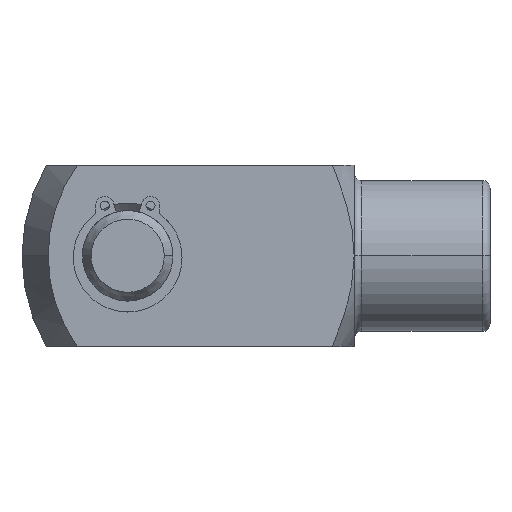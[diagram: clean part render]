
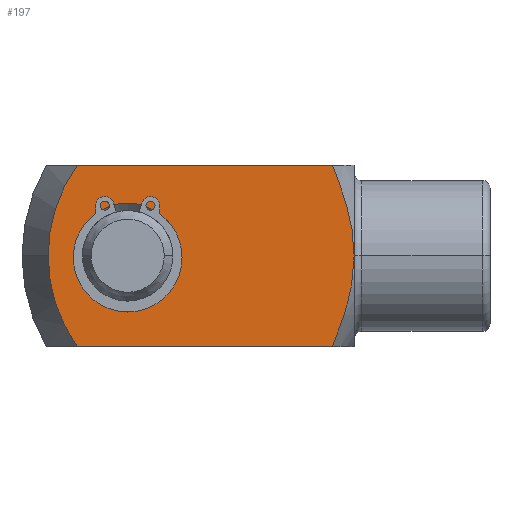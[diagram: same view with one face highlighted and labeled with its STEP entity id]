
A CAD part, top view. The second image highlights one B-rep face of the part: STEP entity #197.
In plain terms, the highlighted planar face has unit normal (0, 0, 1).
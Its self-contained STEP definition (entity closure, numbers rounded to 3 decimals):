
#197 = ADVANCED_FACE ( 'NONE', ( #589, #588 ), #587, .T. ) ;
#198 = EDGE_LOOP ( 'NONE', ( #199, #200 ) ) ;
#199 = ORIENTED_EDGE ( 'NONE', *, *, #2741, .T. ) ;
#200 = ORIENTED_EDGE ( 'NONE', *, *, #201, .T. ) ;
#201 = EDGE_CURVE ( 'NONE', #2709, #2711, #647, .T. ) ;
#202 = EDGE_LOOP ( 'NONE', ( #203, #208, #2459, #2458, #2454, #2433 ) ) ;
#203 = ORIENTED_EDGE ( 'NONE', *, *, #205, .F. ) ;
#205 = EDGE_CURVE ( 'NONE', #206, #207, #639, .T. ) ;
#206 = VERTEX_POINT ( 'NONE', #635 ) ;
#207 = VERTEX_POINT ( 'NONE', #634 ) ;
#208 = ORIENTED_EDGE ( 'NONE', *, *, #209, .T. ) ;
#209 = EDGE_CURVE ( 'NONE', #206, #2669, #632, .T. ) ;
#587 = PLANE ( 'NONE',  #649 ) ;
#588 = FACE_OUTER_BOUND ( 'NONE', #202, .T. ) ;
#589 = FACE_BOUND ( 'NONE', #198, .T. ) ;
#628 = DIRECTION ( 'NONE',  ( 1., 0., 0. ) ) ;
#629 = DIRECTION ( 'NONE',  ( 0., 0., 1. ) ) ;
#630 = CARTESIAN_POINT ( 'NONE',  ( -19., 0., 6. ) ) ;
#631 = AXIS2_PLACEMENT_3D ( 'NONE', #630, #629, #628 ) ;
#632 = CIRCLE ( 'NONE', #631, 10.268 ) ;
#634 = CARTESIAN_POINT ( 'NONE',  ( -10.435, 6., 6. ) ) ;
#635 = CARTESIAN_POINT ( 'NONE',  ( -27.333, 6., 6. ) ) ;
#636 = DIRECTION ( 'NONE',  ( 1., 0., 0. ) ) ;
#637 = VECTOR ( 'NONE', #636, 1000. ) ;
#638 = CARTESIAN_POINT ( 'NONE',  ( -31., 6., 6. ) ) ;
#639 = LINE ( 'NONE', #638, #637 ) ;
#641 = DIRECTION ( 'NONE',  ( 1., 0., 0. ) ) ;
#642 = DIRECTION ( 'NONE',  ( 0., 0., -1. ) ) ;
#643 = CARTESIAN_POINT ( 'NONE',  ( -24., 0., 6. ) ) ;
#644 = AXIS2_PLACEMENT_3D ( 'NONE', #643, #642, #641 ) ;
#645 = DIRECTION ( 'NONE',  ( 1., 0., 0. ) ) ;
#646 = DIRECTION ( 'NONE',  ( 0., 0., 1. ) ) ;
#647 = CIRCLE ( 'NONE', #644, 3.5 ) ;
#648 = CARTESIAN_POINT ( 'NONE',  ( -31., -6., 6. ) ) ;
#649 = AXIS2_PLACEMENT_3D ( 'NONE', #648, #646, #645 ) ;
#1111 = CARTESIAN_POINT ( 'NONE',  ( -9., 0., 6. ) ) ;
#1145 = CARTESIAN_POINT ( 'NONE',  ( -10.435, -6., 6. ) ) ;
#1157 = CARTESIAN_POINT ( 'NONE',  ( -10.435, -6., 6. ) ) ;
#1158 = CARTESIAN_POINT ( 'NONE',  ( -10.043, -5.039, 6. ) ) ;
#1159 = CARTESIAN_POINT ( 'NONE',  ( -9.686, -4.057, 6. ) ) ;
#1160 = CARTESIAN_POINT ( 'NONE',  ( -9.163, -2.063, 6. ) ) ;
#1161 = CARTESIAN_POINT ( 'NONE',  ( -9., -1.047, 6. ) ) ;
#1162 = CARTESIAN_POINT ( 'NONE',  ( -9., 0., 6. ) ) ;
#1166 = B_SPLINE_CURVE_WITH_KNOTS ( 'NONE', 3,
 ( #1162, #1161, #1160, #1159, #1158, #1157 ),
 .UNSPECIFIED., .F., .F.,
 ( 4, 2, 4 ),
 ( 0.024, 0.027, 0.03 ),
 .UNSPECIFIED. ) ;
#1197 = DIRECTION ( 'NONE',  ( 1., 0., 0. ) ) ;
#1198 = VECTOR ( 'NONE', #1197, 1000. ) ;
#1199 = CARTESIAN_POINT ( 'NONE',  ( -31., -6., 6. ) ) ;
#1200 = LINE ( 'NONE', #1199, #1198 ) ;
#1251 = CARTESIAN_POINT ( 'NONE',  ( -9., 0., 6. ) ) ;
#1252 = CARTESIAN_POINT ( 'NONE',  ( -9., 0.261, 6. ) ) ;
#1253 = CARTESIAN_POINT ( 'NONE',  ( -9.01, 0.523, 6. ) ) ;
#1254 = CARTESIAN_POINT ( 'NONE',  ( -9.049, 1.041, 6. ) ) ;
#1255 = CARTESIAN_POINT ( 'NONE',  ( -9.077, 1.298, 6. ) ) ;
#1256 = CARTESIAN_POINT ( 'NONE',  ( -9.188, 2.064, 6. ) ) ;
#1257 = CARTESIAN_POINT ( 'NONE',  ( -9.295, 2.567, 6. ) ) ;
#1258 = CARTESIAN_POINT ( 'NONE',  ( -9.688, 4.062, 6. ) ) ;
#1259 = CARTESIAN_POINT ( 'NONE',  ( -10.044, 5.042, 6. ) ) ;
#1260 = CARTESIAN_POINT ( 'NONE',  ( -10.435, 6., 6. ) ) ;
#1264 = B_SPLINE_CURVE_WITH_KNOTS ( 'NONE', 3,
 ( #1260, #1259, #1258, #1257, #1256, #1255, #1254, #1253, #1252, #1251 ),
 .UNSPECIFIED., .F., .F.,
 ( 4, 2, 2, 2, 4 ),
 ( 0.018, 0.021, 0.023, 0.023, 0.024 ),
 .UNSPECIFIED. ) ;
#1525 = DIRECTION ( 'NONE',  ( 1., 0., 0. ) ) ;
#1526 = DIRECTION ( 'NONE',  ( 0., 0., 1. ) ) ;
#1527 = CARTESIAN_POINT ( 'NONE',  ( -19., 0., 6. ) ) ;
#1528 = AXIS2_PLACEMENT_3D ( 'NONE', #1527, #1526, #1525 ) ;
#1529 = CIRCLE ( 'NONE', #1528, 10.268 ) ;
#1538 = CARTESIAN_POINT ( 'NONE',  ( -27.333, -6., 6. ) ) ;
#1539 = CARTESIAN_POINT ( 'NONE',  ( -29.268, 0., 6. ) ) ;
#1586 = CARTESIAN_POINT ( 'NONE',  ( -27.5, 0., 6. ) ) ;
#1643 = CARTESIAN_POINT ( 'NONE',  ( -20.5, 0., 6. ) ) ;
#1649 = DIRECTION ( 'NONE',  ( 1., 0., 0. ) ) ;
#1650 = DIRECTION ( 'NONE',  ( 0., 0., -1. ) ) ;
#1651 = CARTESIAN_POINT ( 'NONE',  ( -24., 0., 6. ) ) ;
#1652 = AXIS2_PLACEMENT_3D ( 'NONE', #1651, #1650, #1649 ) ;
#1656 = CIRCLE ( 'NONE', #1652, 3.5 ) ;
#2433 = ORIENTED_EDGE ( 'NONE', *, *, #2485, .F. ) ;
#2436 = VERTEX_POINT ( 'NONE', #1111 ) ;
#2444 = EDGE_CURVE ( 'NONE', #2436, #2456, #1166, .T. ) ;
#2454 = ORIENTED_EDGE ( 'NONE', *, *, #2444, .F. ) ;
#2456 = VERTEX_POINT ( 'NONE', #1145 ) ;
#2457 = EDGE_CURVE ( 'NONE', #2674, #2456, #1200, .T. ) ;
#2458 = ORIENTED_EDGE ( 'NONE', *, *, #2457, .T. ) ;
#2459 = ORIENTED_EDGE ( 'NONE', *, *, #2679, .T. ) ;
#2485 = EDGE_CURVE ( 'NONE', #207, #2436, #1264, .T. ) ;
#2669 = VERTEX_POINT ( 'NONE', #1539 ) ;
#2674 = VERTEX_POINT ( 'NONE', #1538 ) ;
#2679 = EDGE_CURVE ( 'NONE', #2669, #2674, #1529, .T. ) ;
#2709 = VERTEX_POINT ( 'NONE', #1586 ) ;
#2711 = VERTEX_POINT ( 'NONE', #1643 ) ;
#2741 = EDGE_CURVE ( 'NONE', #2711, #2709, #1656, .T. ) ;
